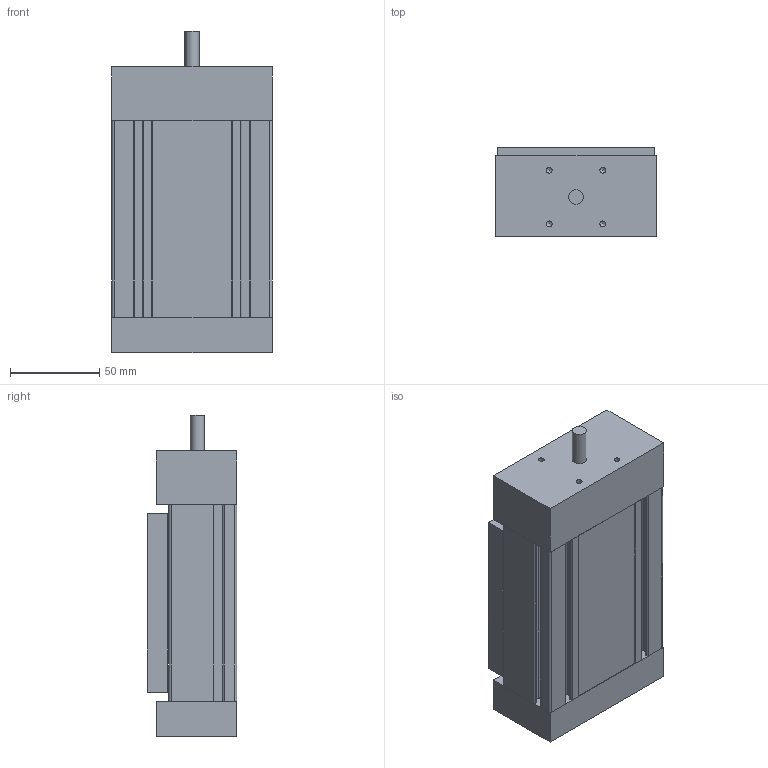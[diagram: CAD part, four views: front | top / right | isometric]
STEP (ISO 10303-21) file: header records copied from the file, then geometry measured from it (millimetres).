
FILE_DESCRIPTION((''),'2;1');
FILE_NAME('C:\Users\disegnatore3\Desktop\alberto_3d\MODELLI PER SITO WEB\ASSI\ML90\ML90PROV-22\FORMATO CAD\ML90PROV-22.stp','2016-09-09T09:13:30',('disegnatore3'),(''),'Autodesk Inventor 2012','Autodesk Inventor 2012','');
FILE_SCHEMA(('AUTOMOTIVE_DESIGN { 1 0 10303 214 1 1 1 1 }'));
Length unit declared in the file: millimetre
Products named in the file (5): ML90PROV-22; PR90PRO; CR90PRO-22; TM90PROV; TR90PROV
Assembly tree (4 placements, depth 2):
  ML90PROV-22
    PR90PRO
    CR90PRO-22
    TM90PROV
    TR90PROV
Bounding box: 90 x 50 x 180 mm (x, y, z)
Volume: 653236.9 mm3; surface area: 96268 mm2
Topology: 4 solids, 4 shells, 110 faces, 293 edges, 192 vertices
Faces by surface type: plane 61, cylinder 39, cone 10
Full cylindrical faces by diameter (mm): 3.242 x10, 8 x1
Entity records: 3379 total; most frequent: DIRECTION 578, CARTESIAN_POINT 563, ORIENTED_EDGE 524, EDGE_CURVE 262, AXIS2_PLACEMENT_3D 197, VECTOR 184, LINE 184, VERTEX_POINT 182
